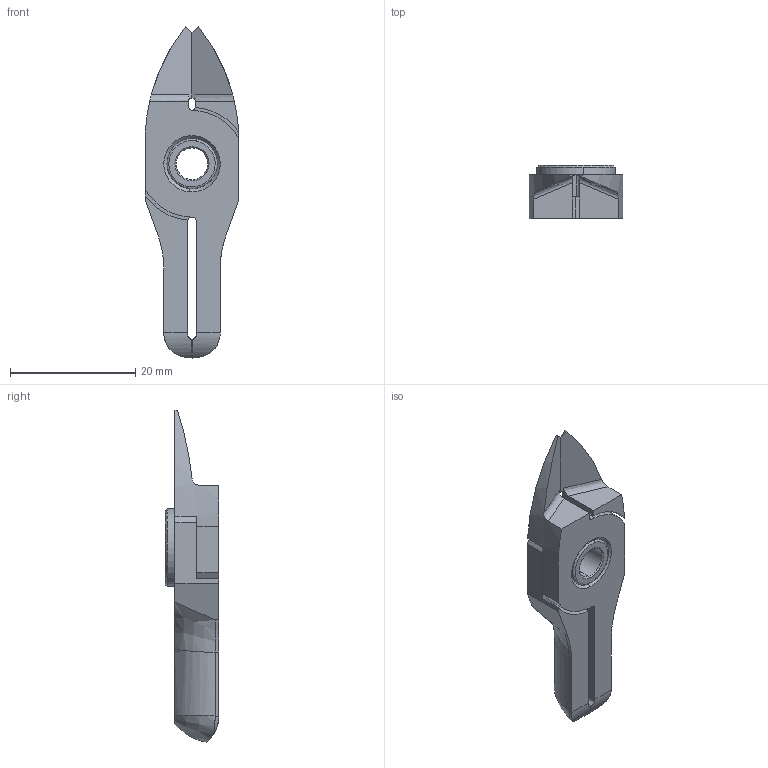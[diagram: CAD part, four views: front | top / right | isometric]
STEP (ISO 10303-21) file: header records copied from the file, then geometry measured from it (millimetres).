
FILE_DESCRIPTION (( 'STEP AP214' ), '1' );
FILE_NAME ('NY05AJT.STEP', '2019-11-28T02:49:12', ( '微软用户' ), ( '微软中国' ), 'SwSTEP 2.0', 'SolidWorks 2016', '' );
FILE_SCHEMA (( 'AUTOMOTIVE_DESIGN' ));
Length unit declared in the file: millimetre
Products named in the file (4): BR2; BR1; BS; NY05AJT
Assembly tree (3 placements, depth 2):
  NY05AJT
    BS
    BR1
    BR2
Bounding box: 15 x 8.5 x 53 mm (x, y, z)
Volume: 2827.8 mm3; surface area: 3280.7 mm2
Topology: 3 solids, 3 shells, 129 faces, 343 edges, 219 vertices
Faces by surface type: bspline 49, plane 35, cylinder 27, cone 14, torus 4
Entity records: 4870 total; most frequent: CARTESIAN_POINT 1939, ORIENTED_EDGE 674, DIRECTION 480, EDGE_CURVE 337, VERTEX_POINT 219, AXIS2_PLACEMENT_3D 169, LINE 142, VECTOR 142
